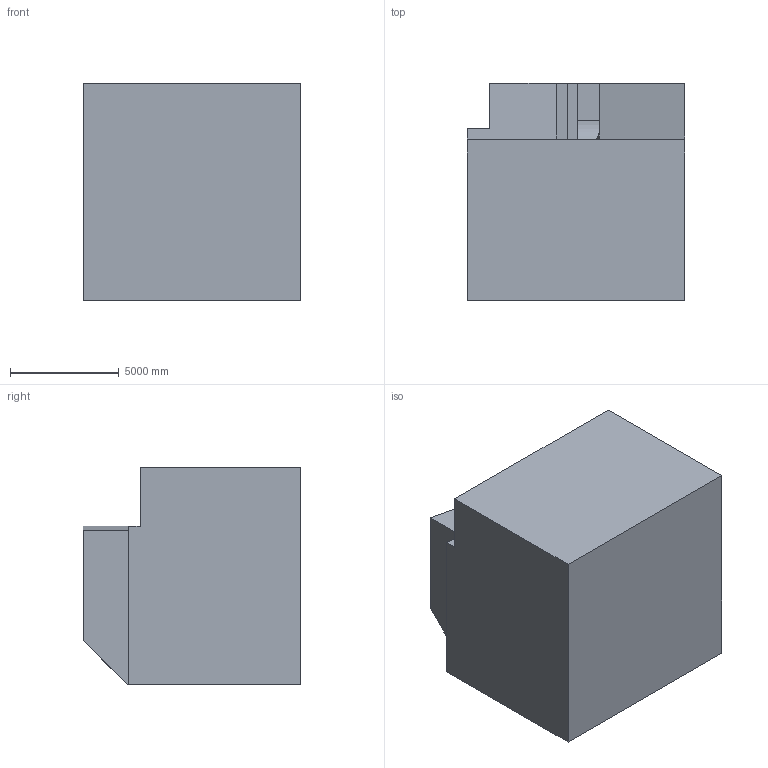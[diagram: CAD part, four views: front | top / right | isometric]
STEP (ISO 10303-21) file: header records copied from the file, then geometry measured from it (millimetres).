
FILE_DESCRIPTION (( 'STEP AP203' ), '1' );
FILE_NAME ('119.STEP', '2022-08-31T11:41:57', ( 'user' ), ( '' ), 'SwSTEP 2.0', 'SolidWorks 2021', '' );
FILE_SCHEMA (( 'CONFIG_CONTROL_DESIGN' ));
Length unit declared in the file: centimetre
Products named in the file (1): 119
Bounding box: 10000 x 10000 x 10000 mm (x, y, z)
Volume: 833778978948.9 mm3; surface area: 626044930.4 mm2
Topology: 1 solids, 1 shells, 26 faces, 72 edges, 48 vertices
Faces by surface type: plane 25, cylinder 1
Entity records: 895 total; most frequent: CARTESIAN_POINT 150, ORIENTED_EDGE 144, DIRECTION 127, EDGE_CURVE 72, VECTOR 69, LINE 69, VERTEX_POINT 48, AXIS2_PLACEMENT_3D 29
